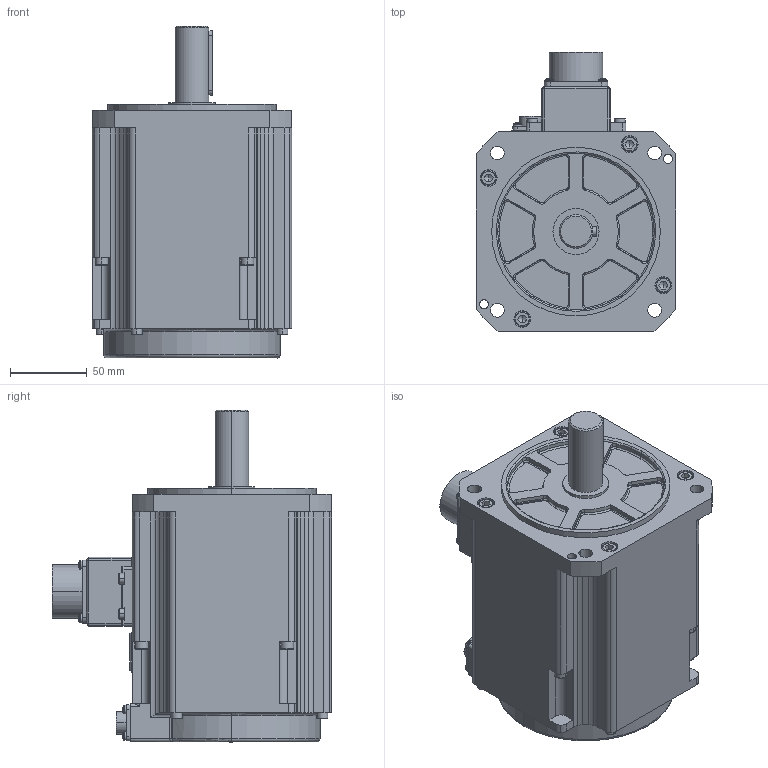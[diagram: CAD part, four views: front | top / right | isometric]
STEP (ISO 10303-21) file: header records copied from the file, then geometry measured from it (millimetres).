
FILE_DESCRIPTION((''),'2;1');
FILE_NAME('U:\WK\W21\1790\3D(R2AA13120DCH00M)\R2AA13120DCH00M.stp','2009-03-17T11:52:21',('HOYANO-CHIEKO'),(''),'Autodesk Inventor 8','Autodesk Inventor 8','');
FILE_SCHEMA(('AUTOMOTIVE_DESIGN { 1 0 10303 214 1 1 1 1 }'));
Length unit declared in the file: millimetre
Products named in the file (1): Part7
Bounding box: 130 x 182 x 216.5 mm (x, y, z)
Volume: 2432598.9 mm3; surface area: 137871.9 mm2
Topology: 1 solids, 29 shells, 1041 faces, 2674 edges, 1706 vertices
Faces by surface type: cylinder 357, plane 349, cone 146, torus 100, bspline 73, sphere 16
Entity records: 36196 total; most frequent: CARTESIAN_POINT 10807, DIRECTION 5514, ORIENTED_EDGE 5276, EDGE_CURVE 2638, AXIS2_PLACEMENT_3D 2248, VERTEX_POINT 1706, CIRCLE 1272, EDGE_LOOP 1154
